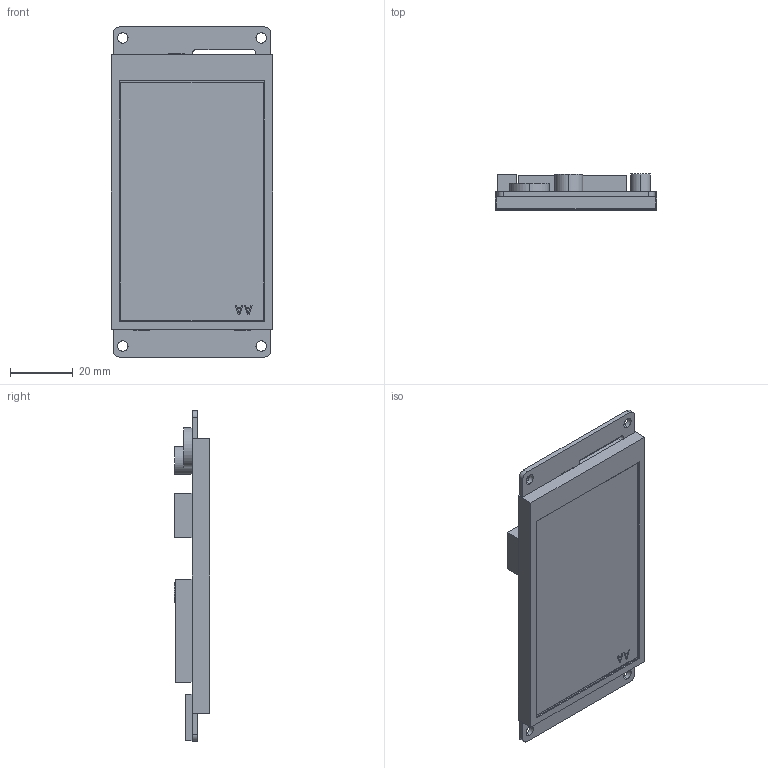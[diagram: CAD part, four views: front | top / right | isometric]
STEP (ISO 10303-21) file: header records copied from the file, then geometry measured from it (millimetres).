
FILE_DESCRIPTION((''),'2;1');
FILE_NAME('DMG80480K035-03WTC_ASM','2022-02-22T',('Administrator'),(''),'PRO/ENGINEER BY PARAMETRIC TECHNOLOGY CORPORATION, 2014320','PRO/ENGINEER BY PARAMETRIC TECHNOLOGY CORPORATION, 2014320','');
FILE_SCHEMA(('CONFIG_CONTROL_DESIGN','SHAPE_APPEARANCE_LAYERS_GROUPS'));
Length unit declared in the file: millimetre
Products named in the file (4): TK035020; LI48800T035BA3004; PCB; DMG80480K035-03WTC_ASM
Assembly tree (3 placements, depth 2):
  DMG80480K035-03WTC_ASM
    TK035020
    LI48800T035BA3004
    PCB
Bounding box: 51.26 x 11.4 x 105 mm (x, y, z)
Volume: 26354.5 mm3; surface area: 26433.9 mm2
Topology: 3 solids, 3 shells, 119 faces, 306 edges, 204 vertices
Faces by surface type: plane 97, cylinder 22
Entity records: 3805 total; most frequent: CARTESIAN_POINT 636, ORIENTED_EDGE 612, DIRECTION 602, EDGE_CURVE 306, VECTOR 262, LINE 262, VERTEX_POINT 204, AXIS2_PLACEMENT_3D 170
